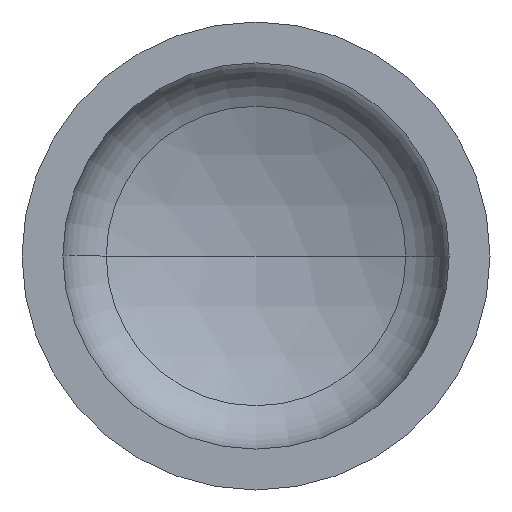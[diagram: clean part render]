
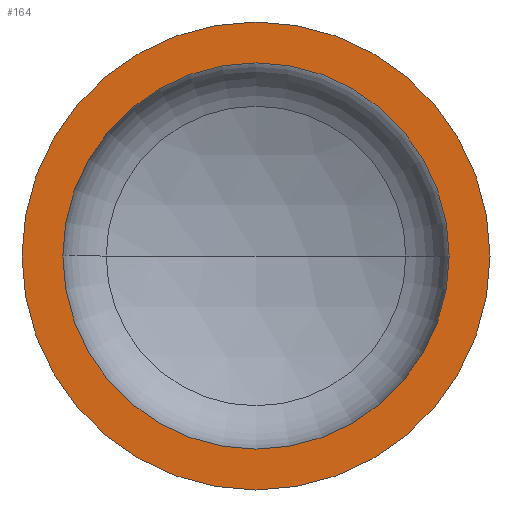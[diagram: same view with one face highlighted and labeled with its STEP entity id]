
A CAD part, front view. The second image highlights one B-rep face of the part: STEP entity #164.
In plain terms, the highlighted planar face has unit normal (0, -1, 0).
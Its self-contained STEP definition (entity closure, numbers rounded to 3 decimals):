
#1 = AXIS2_PLACEMENT_3D ( 'NONE', #305, #237, #235 ) ;
#5 = EDGE_LOOP ( 'NONE', ( #58, #24 ) ) ;
#15 = AXIS2_PLACEMENT_3D ( 'NONE', #260, #257, #242 ) ;
#21 = EDGE_CURVE ( 'NONE', #91, #109, #124, .T. ) ;
#24 = ORIENTED_EDGE ( 'NONE', *, *, #114, .T. ) ;
#38 = VERTEX_POINT ( 'NONE', #364 ) ;
#50 = EDGE_LOOP ( 'NONE', ( #345, #98 ) ) ;
#57 = DIRECTION ( 'NONE',  ( 1., 0., 0. ) ) ;
#58 = ORIENTED_EDGE ( 'NONE', *, *, #21, .T. ) ;
#65 = EDGE_CURVE ( 'NONE', #80, #38, #139, .T. ) ;
#70 = DIRECTION ( 'NONE',  ( 0., -1., 0. ) ) ;
#76 = CARTESIAN_POINT ( 'NONE',  ( 0., 0., 0. ) ) ;
#80 = VERTEX_POINT ( 'NONE', #321 ) ;
#83 = CARTESIAN_POINT ( 'NONE',  ( -550., 0., 0. ) ) ;
#91 = VERTEX_POINT ( 'NONE', #148 ) ;
#98 = ORIENTED_EDGE ( 'NONE', *, *, #65, .F. ) ;
#109 = VERTEX_POINT ( 'NONE', #215 ) ;
#114 = EDGE_CURVE ( 'NONE', #109, #91, #302, .T. ) ;
#124 = CIRCLE ( 'NONE', #15, 550. ) ;
#125 = EDGE_CURVE ( 'NONE', #38, #80, #372, .T. ) ;
#139 = CIRCLE ( 'NONE', #1, 454. ) ;
#148 = CARTESIAN_POINT ( 'NONE',  ( 550., 0., 0. ) ) ;
#164 = ADVANCED_FACE ( 'NONE', ( #240, #166 ), #185, .F. ) ;
#166 = FACE_OUTER_BOUND ( 'NONE', #5, .T. ) ;
#179 = DIRECTION ( 'NONE',  ( 1., 0., 0. ) ) ;
#185 = PLANE ( 'NONE',  #315 ) ;
#215 = CARTESIAN_POINT ( 'NONE',  ( -550., 0., 0. ) ) ;
#223 = AXIS2_PLACEMENT_3D ( 'NONE', #76, #70, #57 ) ;
#235 = DIRECTION ( 'NONE',  ( 1., 0., 0. ) ) ;
#237 = DIRECTION ( 'NONE',  ( 0., -1., 0. ) ) ;
#238 = AXIS2_PLACEMENT_3D ( 'NONE', #247, #246, #179 ) ;
#240 = FACE_BOUND ( 'NONE', #50, .T. ) ;
#242 = DIRECTION ( 'NONE',  ( 1., 0., 0. ) ) ;
#246 = DIRECTION ( 'NONE',  ( 0., -1., 0. ) ) ;
#247 = CARTESIAN_POINT ( 'NONE',  ( 0., 0., 0. ) ) ;
#251 = DIRECTION ( 'NONE',  ( 0., 1., 0. ) ) ;
#257 = DIRECTION ( 'NONE',  ( 0., -1., 0. ) ) ;
#260 = CARTESIAN_POINT ( 'NONE',  ( 0., 0., 0. ) ) ;
#302 = CIRCLE ( 'NONE', #238, 550. ) ;
#305 = CARTESIAN_POINT ( 'NONE',  ( 0., 0., 0. ) ) ;
#315 = AXIS2_PLACEMENT_3D ( 'NONE', #83, #251, #410 ) ;
#321 = CARTESIAN_POINT ( 'NONE',  ( -454., 0., 0. ) ) ;
#345 = ORIENTED_EDGE ( 'NONE', *, *, #125, .F. ) ;
#364 = CARTESIAN_POINT ( 'NONE',  ( 454., 0., 0. ) ) ;
#372 = CIRCLE ( 'NONE', #223, 454. ) ;
#410 = DIRECTION ( 'NONE',  ( -1., 0., 0. ) ) ;
